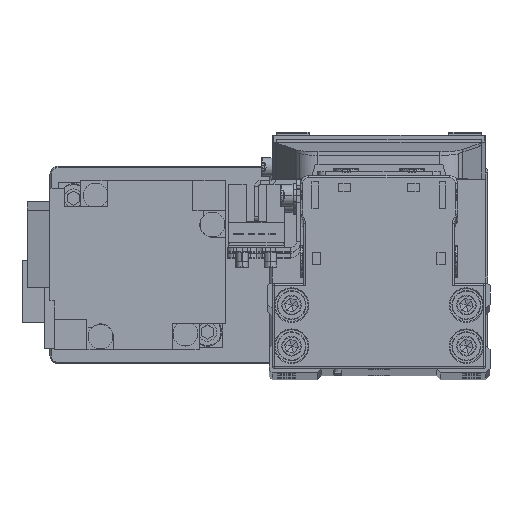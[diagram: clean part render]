
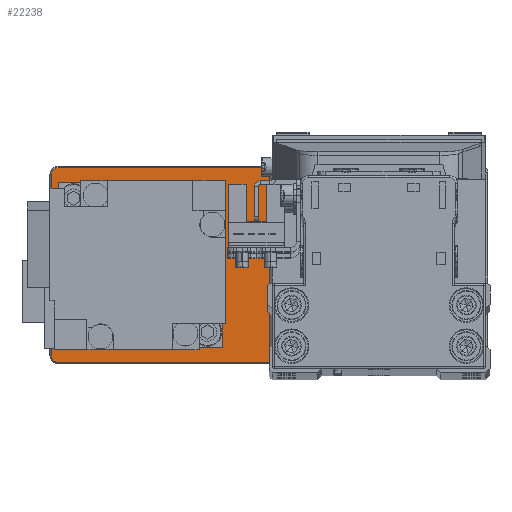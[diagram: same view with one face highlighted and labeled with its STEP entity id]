
A CAD part, top view. The second image highlights one B-rep face of the part: STEP entity #22238.
In plain terms, the highlighted planar face has unit normal (0, 0, 1).
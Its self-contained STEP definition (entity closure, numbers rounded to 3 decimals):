
#409 = AXIS2_PLACEMENT_3D ( 'NONE', #33427, #5254, #17825 ) ;
#650 = DIRECTION ( 'NONE',  ( -1., 0., 0. ) ) ;
#684 = ORIENTED_EDGE ( 'NONE', *, *, #38749, .T. ) ;
#839 = CIRCLE ( 'NONE', #23828, 12.8 ) ;
#2056 = DIRECTION ( 'NONE',  ( 0., 0., 1. ) ) ;
#2250 = CARTESIAN_POINT ( 'NONE',  ( -50., -23.7, 5. ) ) ;
#2388 = CARTESIAN_POINT ( 'NONE',  ( 30., 0., 5. ) ) ;
#2436 = CARTESIAN_POINT ( 'NONE',  ( 50., 22., 5. ) ) ;
#3385 = EDGE_CURVE ( 'NONE', #5754, #31541, #38416, .T. ) ;
#3646 = EDGE_CURVE ( 'NONE', #13541, #7258, #4611, .T. ) ;
#3693 = AXIS2_PLACEMENT_3D ( 'NONE', #40154, #12035, #24583 ) ;
#4430 = DIRECTION ( 'NONE',  ( 1., 0., 0. ) ) ;
#4463 = LINE ( 'NONE', #17031, #28462 ) ;
#4476 = CARTESIAN_POINT ( 'NONE',  ( 50., -23.7, 5. ) ) ;
#4611 = LINE ( 'NONE', #17180, #27098 ) ;
#5159 = FACE_OUTER_BOUND ( 'NONE', #30818, .T. ) ;
#5254 = DIRECTION ( 'NONE',  ( 0., 0., 1. ) ) ;
#5658 = VERTEX_POINT ( 'NONE', #12524 ) ;
#5673 = AXIS2_PLACEMENT_3D ( 'NONE', #15251, #27815, #40298 ) ;
#5754 = VERTEX_POINT ( 'NONE', #10252 ) ;
#5896 = CIRCLE ( 'NONE', #28906, 1.7 ) ;
#5923 = DIRECTION ( 'NONE',  ( 0., -1., 0. ) ) ;
#7258 = VERTEX_POINT ( 'NONE', #8991 ) ;
#8380 = DIRECTION ( 'NONE',  ( 0., 0., -1. ) ) ;
#8564 = VERTEX_POINT ( 'NONE', #2250 ) ;
#8824 = CIRCLE ( 'NONE', #31838, 1.7 ) ;
#8991 = CARTESIAN_POINT ( 'NONE',  ( 51.7, 22., 5. ) ) ;
#10252 = CARTESIAN_POINT ( 'NONE',  ( 42.8, 0., 5. ) ) ;
#11856 = DIRECTION ( 'NONE',  ( 0., 0., -1. ) ) ;
#12035 = DIRECTION ( 'NONE',  ( 0., 0., 1. ) ) ;
#12210 = EDGE_CURVE ( 'NONE', #33839, #33517, #29982, .T. ) ;
#12257 = AXIS2_PLACEMENT_3D ( 'NONE', #36530, #8380, #20938 ) ;
#12268 = ORIENTED_EDGE ( 'NONE', *, *, #21313, .T. ) ;
#12524 = CARTESIAN_POINT ( 'NONE',  ( -51.7, -22., 5. ) ) ;
#13541 = VERTEX_POINT ( 'NONE', #39838 ) ;
#13544 = EDGE_LOOP ( 'NONE', ( #23373, #684 ) ) ;
#14256 = ORIENTED_EDGE ( 'NONE', *, *, #29117, .T. ) ;
#14625 = DIRECTION ( 'NONE',  ( 1., 0., 0. ) ) ;
#14950 = DIRECTION ( 'NONE',  ( 0., 0., -1. ) ) ;
#15001 = DIRECTION ( 'NONE',  ( 0., 0., 1. ) ) ;
#15002 = CARTESIAN_POINT ( 'NONE',  ( 50., 23.7, 5. ) ) ;
#15251 = CARTESIAN_POINT ( 'NONE',  ( -28., 0., 5. ) ) ;
#15939 = VERTEX_POINT ( 'NONE', #35245 ) ;
#16310 = LINE ( 'NONE', #28858, #25078 ) ;
#17031 = CARTESIAN_POINT ( 'NONE',  ( 50., -23.7, 5. ) ) ;
#17180 = CARTESIAN_POINT ( 'NONE',  ( 51.7, 22., 5. ) ) ;
#17735 = PLANE ( 'NONE',  #34517 ) ;
#17825 = DIRECTION ( 'NONE',  ( 1., 0., 0. ) ) ;
#18029 = EDGE_CURVE ( 'NONE', #31541, #5754, #839, .T. ) ;
#18166 = CIRCLE ( 'NONE', #409, 1.7 ) ;
#18932 = CARTESIAN_POINT ( 'NONE',  ( -17.7, 0., 5. ) ) ;
#19612 = ORIENTED_EDGE ( 'NONE', *, *, #32343, .T. ) ;
#19648 = EDGE_CURVE ( 'NONE', #24283, #13541, #8824, .T. ) ;
#20079 = CARTESIAN_POINT ( 'NONE',  ( 50., -22., 5. ) ) ;
#20723 = AXIS2_PLACEMENT_3D ( 'NONE', #2388, #14950, #27501 ) ;
#20814 = FACE_BOUND ( 'NONE', #25009, .T. ) ;
#20938 = DIRECTION ( 'NONE',  ( 1., 0., 0. ) ) ;
#21313 = EDGE_CURVE ( 'NONE', #34577, #15939, #18166, .T. ) ;
#21418 = CIRCLE ( 'NONE', #3693, 1.7 ) ;
#21569 = LINE ( 'NONE', #34090, #39657 ) ;
#21888 = ORIENTED_EDGE ( 'NONE', *, *, #36023, .T. ) ;
#22238 = ADVANCED_FACE ( 'NONE', ( #20814, #33334, #5159 ), #17735, .T. ) ;
#23373 = ORIENTED_EDGE ( 'NONE', *, *, #12210, .T. ) ;
#23423 = CIRCLE ( 'NONE', #5673, 10.3 ) ;
#23828 = AXIS2_PLACEMENT_3D ( 'NONE', #39980, #11856, #24400 ) ;
#24283 = VERTEX_POINT ( 'NONE', #4476 ) ;
#24400 = DIRECTION ( 'NONE',  ( 1., 0., 0. ) ) ;
#24583 = DIRECTION ( 'NONE',  ( 1., 0., 0. ) ) ;
#24817 = ORIENTED_EDGE ( 'NONE', *, *, #27162, .T. ) ;
#25009 = EDGE_LOOP ( 'NONE', ( #35239, #29921 ) ) ;
#25078 = VECTOR ( 'NONE', #650, 1000. ) ;
#26185 = EDGE_CURVE ( 'NONE', #8564, #24283, #4463, .T. ) ;
#27098 = VECTOR ( 'NONE', #29709, 1000. ) ;
#27162 = EDGE_CURVE ( 'NONE', #7258, #37972, #5896, .T. ) ;
#27501 = DIRECTION ( 'NONE',  ( 1., 0., 0. ) ) ;
#27548 = DIRECTION ( 'NONE',  ( 1., 0., 0. ) ) ;
#27815 = DIRECTION ( 'NONE',  ( 0., 0., -1. ) ) ;
#28462 = VECTOR ( 'NONE', #29561, 1000. ) ;
#28858 = CARTESIAN_POINT ( 'NONE',  ( -50., 23.7, 5. ) ) ;
#28906 = AXIS2_PLACEMENT_3D ( 'NONE', #2436, #15001, #27548 ) ;
#29117 = EDGE_CURVE ( 'NONE', #37972, #34577, #16310, .T. ) ;
#29561 = DIRECTION ( 'NONE',  ( 1., 0., 0. ) ) ;
#29709 = DIRECTION ( 'NONE',  ( 0., 1., 0. ) ) ;
#29921 = ORIENTED_EDGE ( 'NONE', *, *, #18029, .T. ) ;
#29982 = CIRCLE ( 'NONE', #12257, 10.3 ) ;
#30268 = CARTESIAN_POINT ( 'NONE',  ( 0., 0., 5. ) ) ;
#30340 = CARTESIAN_POINT ( 'NONE',  ( -50., 23.7, 5. ) ) ;
#30440 = ORIENTED_EDGE ( 'NONE', *, *, #26185, .T. ) ;
#30818 = EDGE_LOOP ( 'NONE', ( #30440, #37703, #39108, #24817, #14256, #12268, #19612, #21888 ) ) ;
#31184 = CARTESIAN_POINT ( 'NONE',  ( 17.2, 0., 5. ) ) ;
#31541 = VERTEX_POINT ( 'NONE', #31184 ) ;
#31838 = AXIS2_PLACEMENT_3D ( 'NONE', #20079, #32607, #4430 ) ;
#32343 = EDGE_CURVE ( 'NONE', #15939, #5658, #21569, .T. ) ;
#32607 = DIRECTION ( 'NONE',  ( 0., 0., 1. ) ) ;
#33334 = FACE_BOUND ( 'NONE', #13544, .T. ) ;
#33427 = CARTESIAN_POINT ( 'NONE',  ( -50., 22., 5. ) ) ;
#33517 = VERTEX_POINT ( 'NONE', #35018 ) ;
#33839 = VERTEX_POINT ( 'NONE', #18932 ) ;
#34090 = CARTESIAN_POINT ( 'NONE',  ( -51.7, -22., 5. ) ) ;
#34517 = AXIS2_PLACEMENT_3D ( 'NONE', #30268, #2056, #14625 ) ;
#34577 = VERTEX_POINT ( 'NONE', #30340 ) ;
#35018 = CARTESIAN_POINT ( 'NONE',  ( -38.3, 0., 5. ) ) ;
#35239 = ORIENTED_EDGE ( 'NONE', *, *, #3385, .T. ) ;
#35245 = CARTESIAN_POINT ( 'NONE',  ( -51.7, 22., 5. ) ) ;
#36023 = EDGE_CURVE ( 'NONE', #5658, #8564, #21418, .T. ) ;
#36530 = CARTESIAN_POINT ( 'NONE',  ( -28., 0., 5. ) ) ;
#37703 = ORIENTED_EDGE ( 'NONE', *, *, #19648, .T. ) ;
#37972 = VERTEX_POINT ( 'NONE', #15002 ) ;
#38416 = CIRCLE ( 'NONE', #20723, 12.8 ) ;
#38749 = EDGE_CURVE ( 'NONE', #33517, #33839, #23423, .T. ) ;
#39108 = ORIENTED_EDGE ( 'NONE', *, *, #3646, .T. ) ;
#39657 = VECTOR ( 'NONE', #5923, 1000. ) ;
#39838 = CARTESIAN_POINT ( 'NONE',  ( 51.7, -22., 5. ) ) ;
#39980 = CARTESIAN_POINT ( 'NONE',  ( 30., 0., 5. ) ) ;
#40154 = CARTESIAN_POINT ( 'NONE',  ( -50., -22., 5. ) ) ;
#40298 = DIRECTION ( 'NONE',  ( 1., 0., 0. ) ) ;
